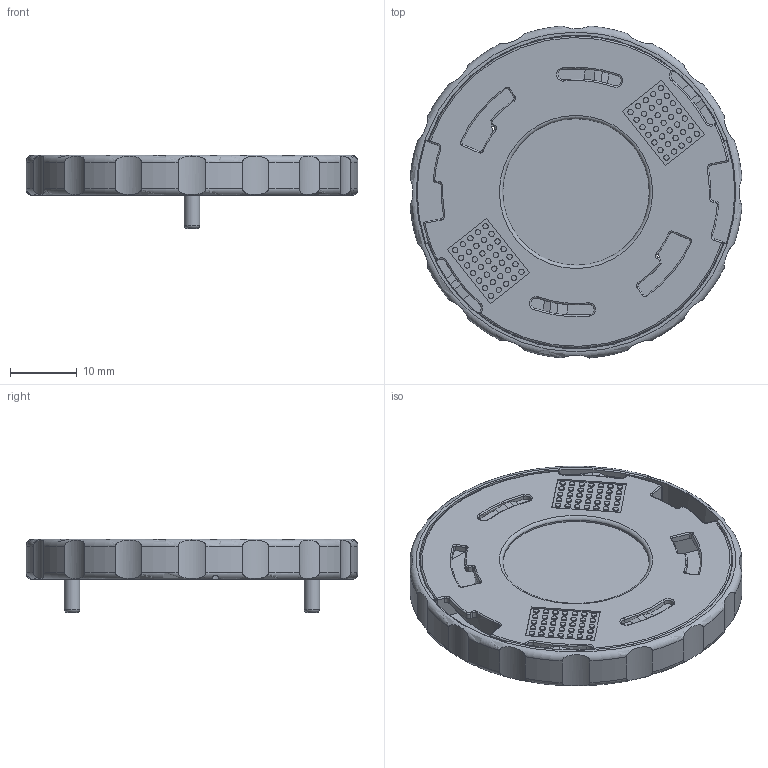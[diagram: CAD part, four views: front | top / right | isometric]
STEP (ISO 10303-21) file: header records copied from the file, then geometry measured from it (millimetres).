
FILE_DESCRIPTION(/* description */ ('Unknown'),/* implementation_level */ '2;1');
FILE_NAME(/* name */ '023-701-03',/* time_stamp */ '2024-04-22T08:47:06+02:00',/* author */ ('Unknown'),/* organization */ ('Unknown'),/* preprocessor_version */ 'ST-DEVELOPER v16.7',/* originating_system */ 'Solid Edge',/* authorisation */ 'Unknown');
FILE_SCHEMA (('AUTOMOTIVE_DESIGN {1 0 10303 214 3 1 1}'));
Length unit declared in the file: millimetre
Products named in the file (1): 023-701-03
Bounding box: 49.83 x 49.83 x 11 mm (x, y, z)
Volume: 5667.5 mm3; surface area: 11189.6 mm2
Topology: 2 solids, 2 shells, 1329 faces, 3496 edges, 2274 vertices
Faces by surface type: plane 846, cylinder 267, torus 89, cone 87, bspline 32, sphere 8
Full cylindrical faces by diameter (mm): 0.8 x70, 1.2 x2, 2.35 x4, 2.4 x2, 3.95 x2, 4 x2, 4.728 x2, 22 x1, 25.5 x1
Entity records: 41710 total; most frequent: CARTESIAN_POINT 9240, ORIENTED_EDGE 6692, DIRECTION 6604, EDGE_CURVE 3346, AXIS2_PLACEMENT_3D 2275, VERTEX_POINT 2252, LINE 2054, VECTOR 2054
